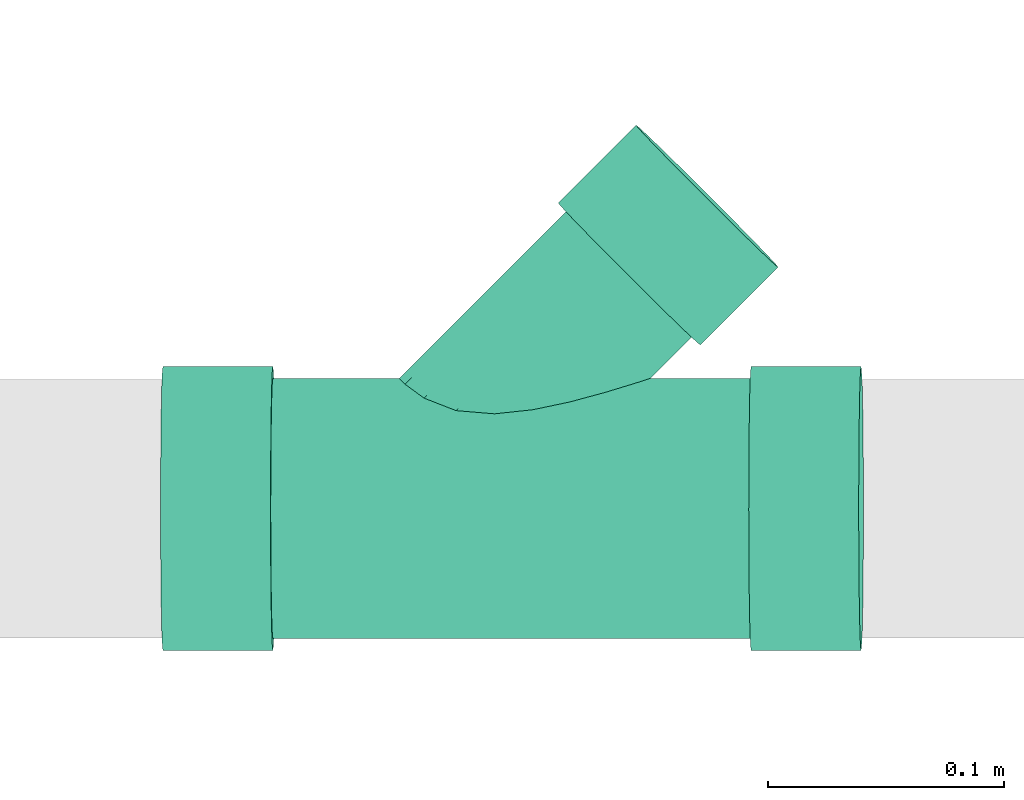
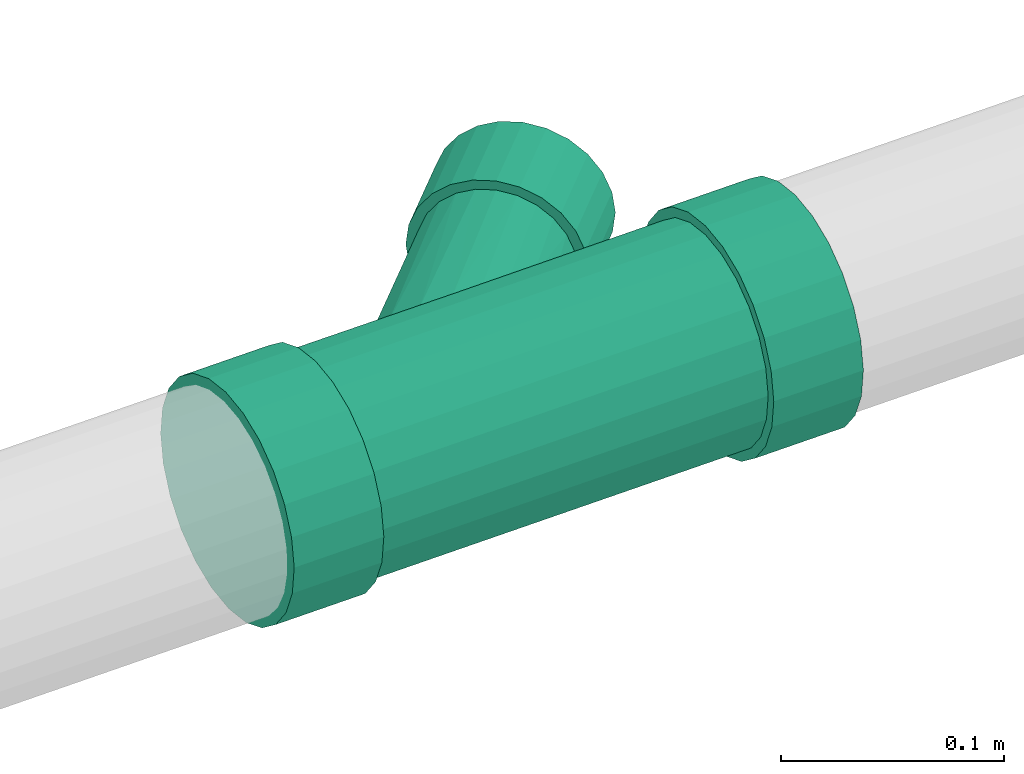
# One storey, part 66 of 83: 1 flow fitting.
"""IFC2X3 building model written with IfcOpenShell, lengths in millimetres."""

from ifc_helpers import new_model, entity, si_unit, converted_unit, derived_unit, direction, frame, origin_with_axes, place, context, subcontext, project, spatial, open_shell, surface_model, source, transform, mapped, type_object, element, save


model = new_model("IFC2X3")

# Units and contexts
model_context = context("Model", 3, precision=0.01, world=frame((0.0, 4.29681676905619e-09, 0.0)), true_north=direction((4.01073788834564e-13, 1.0)))
plan_context = context("Plan", 3, precision=0.01, world=frame((0.0, 4.29681676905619e-09, 0.0)), true_north=direction((4.01073788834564e-13, 1.0)))
body_context = subcontext(model_context, "Body", "Model", "MODEL_VIEW")
ifc_project = project(units=[converted_unit("PLANEANGLEUNIT", "DEGREE", entity("IfcPositiveLengthMeasure", 0.0174532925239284), si_unit("PLANEANGLEUNIT", "RADIAN"), dimensions=[0, 0, 0, 0, 0, 0, 0]), si_unit("AREAUNIT", "SQUARE_METRE"), si_unit("LENGTHUNIT", "METRE", prefix="MILLI"), si_unit("MASSUNIT", "GRAM", prefix="KILO"), si_unit("POWERUNIT", "WATT"), si_unit("PRESSUREUNIT", "PASCAL"), si_unit("FORCEUNIT", "NEWTON", prefix="KILO"), si_unit("ELECTRICVOLTAGEUNIT", "VOLT"), si_unit("ELECTRICCURRENTUNIT", "AMPERE"), si_unit("THERMODYNAMICTEMPERATUREUNIT", "DEGREE_CELSIUS"), si_unit("TIMEUNIT", "SECOND"), si_unit("VOLUMEUNIT", "CUBIC_METRE"), derived_unit("LINEARVELOCITYUNIT", [(si_unit("LENGTHUNIT", "METRE"), 1), (si_unit("TIMEUNIT", "SECOND"), -1)]), derived_unit("VOLUMETRICFLOWRATEUNIT", [(si_unit("VOLUMEUNIT", "CUBIC_METRE"), 1), (si_unit("TIMEUNIT", "SECOND"), -1)]), derived_unit("THERMALTRANSMITTANCEUNIT", [(si_unit("POWERUNIT", "WATT"), 1), (si_unit("THERMODYNAMICTEMPERATUREUNIT", "KELVIN"), -1), (si_unit("AREAUNIT", "SQUARE_METRE"), -1)]), derived_unit("SOUNDPRESSUREUNIT", [(si_unit("PRESSUREUNIT", "PASCAL"), 1)])], contexts=[model_context, plan_context])

# Site, building, storey
site_placement = place(None, frame((0.0, -4.29681676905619e-09, 0.0), z_axis=(0.0, 0.0, 1.0), x_axis=(1.0, 0.0, 0.0)))
site = spatial("IfcSite", under=ifc_project, at=site_placement, Name="ENGM", CompositionType="ELEMENT")
building_placement = place(site_placement, frame((0.0, 4.29681676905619e-09, 0.0), z_axis=(0.0, 0.0, 1.0), x_axis=(1.0, 0.0, 0.0)))
building = spatial("IfcBuilding", under=site, at=building_placement, Name="TI", CompositionType="ELEMENT")
storey_placement = place(building_placement, frame((0.0, 0.0, 204000.0), z_axis=(0.0, 0.0, 1.0), x_axis=(1.0, 0.0, 0.0)))
storey = spatial("IfcBuildingStorey", under=building, at=storey_placement, Name="Nivå D", CompositionType="ELEMENT", Elevation=204000.0)

# Flow fitting
pipe_fitting_type = type_object("IfcPipeFittingType", Name="magi_sewer_tee_wye_NOR", PredefinedType="JUNCTION")
shared_shape = source(origin_with_axes(), body_context, "Body", "SurfaceModel", [
    surface_model("IfcShellBasedSurfaceModel", [(-98.01345, -30.0, -51.96152), (-98.01345, 42.42641, -42.42641), (-98.01345, -15.52914, -57.95555), (-98.01345, -51.96152, -30.0), (-98.01345, -42.42641, -42.42641), (-98.01345, -57.95555, -15.52914), (-98.01345, -60.0, 0.0), (-98.01345, 0.0, -60.0), (-98.01345, 30.0, -51.96152), (-98.01345, 15.52914, -57.95555), (-98.01345, -57.95555, 15.52914), (-98.01345, 51.96152, -30.0), (-98.01345, 60.0, 0.0), (-98.01345, 57.95555, -15.52914), (-98.01345, -51.96152, 30.0), (-98.01345, -42.42641, 42.42641), (-98.01345, -15.52914, 57.95555), (-98.01345, 0.0, 60.0), (-98.01345, -30.0, 51.96152), (-98.01345, 51.96152, 30.0), (-98.01345, 57.95555, 15.52914), (-98.01345, 30.0, 51.96152), (-98.01345, 42.42641, 42.42641), (-98.01345, 15.52914, 57.95555), (-51.51345, -42.42641, 42.42641), (-51.51345, 0.0, 60.0), (-51.51345, -15.52914, 57.95555), (-51.51345, -30.0, 51.96152), (-51.51345, -51.96152, 30.0), (-51.51345, -57.95555, 15.52914), (-51.51345, 60.0, 0.0), (-51.51345, 30.0, 51.96152), (-51.51345, 51.96152, 30.0), (-51.51345, 42.42641, 42.42641), (-51.51345, 15.52914, 57.95555), (-51.51345, 57.95555, 15.52914), (-51.51345, 51.96152, -30.0), (-51.51345, 42.42641, -42.42641), (-51.51345, -57.95555, -15.52914), (-51.51345, -42.42641, -42.42641), (-51.51345, -51.96152, -30.0), (-51.51345, -30.0, -51.96152), (-51.51345, -15.52914, -57.95555), (-51.51345, 57.95555, -15.52914), (-51.51345, 30.0, -51.96152), (-51.51345, 0.0, -60.0), (-51.51345, 15.52914, -57.95555), (-51.51345, -60.0, 0.0), (-51.51345, 0.0, 55.0), (-51.51345, 14.23505, 53.12592), (-51.51345, 27.5, 47.63139), (-51.51345, 47.63139, 27.5), (-51.51345, -47.63139, 27.5), (-51.51345, 38.89087, 38.89087), (-51.51345, 53.12592, -14.23505), (-51.51345, -27.5, 47.63139), (-51.51345, -14.23505, 53.12592), (-51.51345, -38.89087, 38.89087), (-51.51345, -55.0, 0.0), (-51.51345, -53.12592, 14.23505), (-51.51345, 53.12592, 14.23505), (-51.51345, 47.63139, -27.5), (-51.51345, -27.5, -47.63139), (-51.51345, 0.0, -55.0), (-51.51345, 38.89087, -38.89087), (-51.51345, 27.5, -47.63139), (-51.51345, 14.23505, -53.12592), (-51.51345, -47.63139, -27.5), (-51.51345, -38.89087, -38.89087), (-51.51345, -53.12592, -14.23505), (-51.51345, -14.23505, -53.12592), (-51.51345, 55.0, 0.0), (197.23148, 30.0, -51.96152), (197.23148, -42.42641, -42.42641), (197.23148, 15.52914, -57.95555), (197.23148, 51.96152, -30.0), (197.23148, 42.42641, -42.42641), (197.23148, 57.95555, -15.52914), (197.23148, 60.0, 0.0), (197.23148, 0.0, -60.0), (197.23148, -30.0, -51.96152), (197.23148, -15.52914, -57.95555), (197.23148, 57.95555, 15.52914), (197.23148, -51.96152, -30.0), (197.23148, -60.0, 0.0), (197.23148, -57.95555, -15.52914), (197.23148, 51.96152, 30.0), (197.23148, 42.42641, 42.42641), (197.23148, 15.52914, 57.95555), (197.23148, 0.0, 60.0), (197.23148, 30.0, 51.96152), (197.23148, -51.96152, 30.0), (197.23148, -57.95555, 15.52914), (197.23148, -30.0, 51.96152), (197.23148, -42.42641, 42.42641), (197.23148, -15.52914, 57.95555), (150.73148, 42.42641, 42.42641), (150.73148, 0.0, 60.0), (150.73148, 15.52914, 57.95555), (150.73148, 30.0, 51.96152), (150.73148, 51.96152, 30.0), (150.73148, 57.95555, 15.52914), (150.73148, -60.0, 0.0), (150.73148, -30.0, 51.96152), (150.73148, -51.96152, 30.0), (150.73148, -42.42641, 42.42641), (150.73148, -15.52914, 57.95555), (150.73148, -57.95555, 15.52914), (150.73148, -51.96152, -30.0), (150.73148, -42.42641, -42.42641), (150.73148, 57.95555, -15.52914), (150.73148, 42.42641, -42.42641), (150.73148, 51.96152, -30.0), (150.73148, 30.0, -51.96152), (150.73148, 15.52914, -57.95555), (150.73148, -57.95555, -15.52914), (150.73148, -30.0, -51.96152), (150.73148, 0.0, -60.0), (150.73148, -15.52914, -57.95555), (150.73148, 60.0, 0.0), (99.21803, -99.19519, -42.5), (70.19333, -128.22658, -10.99981), (106.99517, -91.41626, -41.05185), (114.24232, -84.16745, -36.80608), (128.24273, -70.16381, -10.99981), (125.24086, -73.16637, -21.25), (120.46558, -77.94274, -30.05204), (70.19333, -128.22658, 10.99981), (84.19373, -114.22294, -36.80608), (77.97047, -120.44764, -30.05204), (91.44088, -106.97413, -41.05185), (73.19519, -125.22402, -21.25), (69.16945, -129.25069, 0.0), (84.19373, -114.22294, 36.80608), (114.24232, -84.16745, 36.80608), (128.24273, -70.16381, 10.99981), (125.24086, -73.16637, 21.25), (120.46558, -77.94274, 30.05204), (99.21803, -99.19519, 42.5), (106.99517, -91.41626, 41.05185), (73.19519, -125.22402, 21.25), (77.97047, -120.44764, 30.05204), (91.44088, -106.97413, 41.05185), (129.2666, -69.13969, 0.0), (139.87942, -124.29294, -41.05185), (124.32513, -139.8508, -41.05185), (132.10227, -132.07187, -42.5), (153.34983, -110.81943, -30.05204), (147.12657, -117.04413, -36.80608), (103.07757, -161.10325, 10.99981), (117.07798, -147.09962, -36.80608), (158.1251, -106.04305, -21.25), (161.12697, -103.04049, 10.99981), (103.07757, -161.10325, -10.99981), (110.85472, -153.32433, -30.05204), (106.07944, -158.10069, -21.25), (102.05369, -162.12737, 0.0), (161.12697, -103.04049, -10.99981), (153.34983, -110.81943, 30.05204), (158.1251, -106.04305, 21.25), (147.12657, -117.04413, 36.80608), (139.87942, -124.29294, 41.05185), (132.10227, -132.07187, 42.5), (110.85472, -153.32433, 30.05204), (106.07944, -158.10069, 21.25), (117.07798, -147.09962, 36.80608), (124.32513, -139.8508, 41.05185), (162.15086, -102.01637, 0.0), (150.73148, 0.0, -55.0), (150.73148, 14.23505, -53.12592), (150.73148, 27.5, -47.63139), (150.73148, 38.89087, -38.89087), (150.73148, 47.63139, -27.5), (150.73148, -55.0, 0.0), (150.73148, -27.5, -47.63139), (150.73148, 53.12592, -14.23505), (150.73148, -14.23505, -53.12592), (150.73148, -47.63139, -27.5), (150.73148, -38.89087, -38.89087), (150.73148, -53.12592, -14.23505), (150.73148, -47.63139, 27.5), (150.73148, 55.0, 0.0), (150.73148, 47.63139, 27.5), (150.73148, 27.5, 47.63139), (150.73148, 38.89087, 38.89087), (150.73148, 14.23505, 53.12592), (150.73148, 0.0, 55.0), (150.73148, -53.12592, 14.23505), (150.73148, -27.5, 47.63139), (150.73148, -38.89087, 38.89087), (150.73148, -14.23505, 53.12592), (150.73148, 53.12592, 14.23505), (1.97355, -55.0, 0.0), (4.6492, -52.63398, -15.9582), (26.60066, -41.6117, -35.96479), (12.91168, -46.84943, -28.812), (42.85868, -40.27485, -37.45579), (89.17255, -49.17381, -24.63609), (150.73148, -50.37866, -20.86752), (108.05177, -55.0, 0.0), (101.74198, -52.97914, -14.77195), (74.62734, -45.26915, -31.23625), (59.08601, -42.00512, -35.50451), (42.85868, -40.27485, 37.45579), (26.60066, -41.6117, 35.96479), (12.91168, -46.84943, 28.812), (101.74198, -52.97914, 14.77195), (150.73148, -50.37866, 20.86752), (89.17255, -49.17381, 24.63609), (4.6492, -52.63398, 15.9582), (59.08601, -42.00512, 35.50451), (74.62734, -45.26915, 31.23625), (106.08021, -92.33143, -36.22222), (76.2567, -122.1618, 18.75), (99.21803, -99.19519, -37.5), (117.96586, -80.44304, -26.5165), (112.47475, -85.93542, -32.47595), (122.17935, -76.22858, -18.75), (72.70457, -125.71475, 0.0), (85.9613, -112.45497, -32.47595), (76.2567, -122.1618, -18.75), (80.47018, -117.94735, -26.5165), (92.35584, -106.05896, -36.22222), (73.608, -124.81111, -9.70571), (125.73148, -72.67563, 0.0), (124.82805, -73.57927, -9.70571), (124.82805, -73.57927, 9.70571), (99.21803, -99.19519, 37.5), (112.47475, -85.93542, 32.47595), (122.17935, -76.22858, 18.75), (106.08021, -92.33143, 36.22222), (117.96586, -80.44304, 26.5165), (85.9613, -112.45497, 32.47595), (80.47018, -117.94735, 26.5165), (73.608, -124.81111, 9.70571), (92.35584, -106.05896, 36.22222), (8.78044, -49.7417, 22.3851), (19.75617, -44.23056, 32.3884), (3.31137, -53.81699, 7.9791), (106.47432, -54.49478, 3.69299), (125.27976, -73.12745, 4.85286), (123.5037, -74.90393, 14.22786), (104.89688, -53.98957, 7.38598), (95.45726, -51.07647, 19.70402), (104.89688, -53.98957, -7.38598), (125.27976, -73.12745, -4.85286), (95.45726, -51.07647, -19.70402), (106.47432, -54.49478, -3.69299), (8.78044, -49.7417, -22.3851), (123.5037, -74.90393, -14.22786), (19.75617, -44.23056, -32.3884), (3.31137, -53.81699, -7.9791)], [open_shell([[[0, 1, 2]], [[3, 0, 4]], [[5, 6, 0]], [[5, 0, 3]], [[1, 0, 6]], [[7, 8, 9]], [[8, 7, 1]], [[2, 1, 7]], [[1, 10, 11]], [[11, 12, 13]], [[10, 1, 6]], [[10, 14, 15]], [[12, 10, 15]], [[16, 17, 15]], [[16, 15, 18]], [[19, 15, 17]], [[12, 19, 20]], [[12, 15, 19]], [[19, 21, 22]], [[19, 17, 21]], [[23, 21, 17]], [[10, 12, 11]], [[24, 25, 26]], [[24, 26, 27]], [[24, 28, 29]], [[25, 24, 30]], [[30, 24, 29]], [[31, 32, 33]], [[31, 34, 25]], [[32, 30, 35]], [[31, 25, 32]], [[25, 30, 32]], [[29, 36, 30]], [[37, 29, 38]], [[39, 38, 40]], [[41, 42, 38]], [[41, 38, 39]], [[37, 38, 42]], [[37, 36, 29]], [[43, 30, 36]], [[44, 45, 46]], [[45, 44, 37]], [[45, 37, 42]], [[47, 38, 29]], [[43, 13, 30]], [[36, 11, 43]], [[8, 37, 44]], [[36, 37, 1]], [[9, 44, 46]], [[43, 11, 13]], [[13, 12, 30]], [[9, 8, 44]], [[1, 37, 8]], [[1, 11, 36]], [[7, 9, 46]], [[46, 45, 7]], [[2, 42, 41]], [[39, 0, 41]], [[3, 40, 38]], [[39, 40, 4]], [[5, 38, 47]], [[42, 2, 45]], [[41, 0, 2]], [[45, 2, 7]], [[39, 4, 0]], [[40, 3, 4]], [[5, 3, 38]], [[47, 6, 5]], [[29, 10, 47]], [[28, 14, 29]], [[18, 24, 27]], [[28, 24, 15]], [[16, 27, 26]], [[29, 14, 10]], [[10, 6, 47]], [[18, 27, 16]], [[15, 24, 18]], [[15, 14, 28]], [[16, 25, 17]], [[16, 26, 25]], [[23, 34, 31]], [[33, 21, 31]], [[19, 32, 35]], [[33, 32, 22]], [[20, 35, 30]], [[34, 23, 25]], [[31, 21, 23]], [[25, 23, 17]], [[33, 22, 21]], [[32, 19, 22]], [[20, 19, 35]], [[30, 12, 20]], [[48, 49, 50]], [[48, 50, 51]], [[48, 51, 52]], [[51, 50, 53]], [[54, 52, 51]], [[48, 55, 56]], [[48, 57, 55]], [[52, 58, 59]], [[57, 48, 52]], [[52, 54, 58]], [[54, 51, 60]], [[54, 61, 58]], [[61, 62, 58]], [[63, 64, 65]], [[61, 64, 63]], [[65, 66, 63]], [[67, 62, 68]], [[69, 58, 67]], [[62, 63, 70]], [[67, 58, 62]], [[63, 62, 61]], [[71, 54, 60]], [[72, 73, 74]], [[75, 72, 76]], [[77, 78, 72]], [[77, 72, 75]], [[73, 72, 78]], [[79, 80, 81]], [[80, 79, 73]], [[74, 73, 79]], [[73, 82, 83]], [[83, 84, 85]], [[82, 73, 78]], [[82, 86, 87]], [[84, 82, 87]], [[88, 89, 87]], [[88, 87, 90]], [[91, 87, 89]], [[84, 91, 92]], [[84, 87, 91]], [[91, 93, 94]], [[91, 89, 93]], [[95, 93, 89]], [[82, 84, 83]], [[96, 97, 98]], [[96, 98, 99]], [[96, 100, 101]], [[97, 96, 102]], [[102, 96, 101]], [[103, 104, 105]], [[103, 106, 97]], [[104, 102, 107]], [[103, 97, 104]], [[97, 102, 104]], [[101, 108, 102]], [[109, 101, 110]], [[111, 110, 112]], [[113, 114, 110]], [[113, 110, 111]], [[109, 110, 114]], [[109, 108, 101]], [[115, 102, 108]], [[116, 117, 118]], [[117, 116, 109]], [[117, 109, 114]], [[119, 110, 101]], [[115, 85, 102]], [[108, 83, 115]], [[80, 109, 116]], [[108, 109, 73]], [[81, 116, 118]], [[115, 83, 85]], [[85, 84, 102]], [[81, 80, 116]], [[73, 109, 80]], [[73, 83, 108]], [[79, 81, 118]], [[118, 117, 79]], [[74, 114, 113]], [[111, 72, 113]], [[75, 112, 110]], [[111, 112, 76]], [[77, 110, 119]], [[114, 74, 117]], [[113, 72, 74]], [[117, 74, 79]], [[111, 76, 72]], [[112, 75, 76]], [[77, 75, 110]], [[119, 78, 77]], [[101, 82, 119]], [[100, 86, 101]], [[90, 96, 99]], [[100, 96, 87]], [[88, 99, 98]], [[101, 86, 82]], [[82, 78, 119]], [[90, 99, 88]], [[87, 96, 90]], [[87, 86, 100]], [[88, 97, 89]], [[88, 98, 97]], [[95, 106, 103]], [[105, 93, 103]], [[91, 104, 107]], [[105, 104, 94]], [[92, 107, 102]], [[106, 95, 97]], [[103, 93, 95]], [[97, 95, 89]], [[105, 94, 93]], [[104, 91, 94]], [[92, 91, 107]], [[102, 84, 92]], [[120, 121, 122]], [[123, 122, 124]], [[124, 125, 126]], [[123, 124, 126]], [[122, 121, 127]], [[128, 129, 130]], [[121, 130, 129]], [[131, 121, 129]], [[121, 120, 130]], [[132, 127, 121]], [[124, 122, 133]], [[134, 135, 124]], [[136, 135, 134]], [[134, 124, 133]], [[137, 136, 134]], [[134, 138, 139]], [[140, 141, 127]], [[133, 127, 141]], [[142, 138, 133]], [[133, 122, 127]], [[133, 138, 134]], [[143, 124, 135]], [[144, 145, 146]], [[147, 144, 148]], [[144, 149, 150]], [[151, 144, 147]], [[151, 152, 144]], [[150, 153, 154]], [[150, 145, 144]], [[154, 153, 155]], [[150, 149, 153]], [[153, 149, 156]], [[152, 151, 157]], [[144, 152, 158]], [[158, 152, 159]], [[149, 158, 160]], [[149, 144, 158]], [[161, 162, 160]], [[149, 163, 164]], [[163, 149, 165]], [[160, 166, 165]], [[165, 149, 160]], [[162, 166, 160]], [[152, 157, 167]], [[149, 132, 156]], [[164, 127, 149]], [[165, 166, 142]], [[163, 165, 141]], [[163, 140, 164]], [[164, 140, 127]], [[127, 132, 149]], [[141, 165, 133]], [[142, 133, 165]], [[138, 142, 166]], [[141, 140, 163]], [[166, 162, 138]], [[134, 161, 160]], [[158, 137, 160]], [[135, 159, 152]], [[158, 159, 136]], [[143, 152, 167]], [[161, 139, 162]], [[161, 134, 139]], [[162, 139, 138]], [[160, 137, 134]], [[158, 136, 137]], [[135, 136, 159]], [[152, 143, 135]], [[157, 151, 125]], [[167, 157, 143]], [[123, 147, 148]], [[147, 126, 151]], [[122, 148, 144]], [[124, 143, 157]], [[125, 124, 157]], [[125, 151, 126]], [[147, 123, 126]], [[122, 123, 148]], [[144, 120, 122]], [[144, 146, 120]], [[128, 145, 150]], [[154, 129, 150]], [[121, 155, 153]], [[154, 155, 131]], [[132, 153, 156]], [[145, 130, 146]], [[145, 128, 130]], [[146, 130, 120]], [[150, 129, 128]], [[154, 131, 129]], [[121, 131, 155]], [[153, 132, 121]], [[168, 169, 170]], [[171, 168, 170]], [[172, 173, 174]], [[172, 174, 171]], [[172, 175, 173]], [[168, 174, 176]], [[168, 171, 174]], [[174, 177, 178]], [[177, 174, 173]], [[173, 179, 177]], [[180, 175, 181]], [[180, 181, 182]], [[183, 182, 184]], [[183, 185, 186]], [[183, 186, 182]], [[180, 182, 186]], [[173, 180, 187]], [[175, 180, 173]], [[186, 188, 189]], [[189, 180, 186]], [[188, 186, 190]], [[181, 191, 182]], [[58, 69, 192]], [[193, 192, 69]], [[69, 67, 193]], [[67, 68, 194]], [[194, 195, 67]], [[196, 194, 68]], [[196, 174, 178]], [[67, 195, 193]], [[197, 177, 198]], [[199, 200, 179]], [[179, 173, 199]], [[197, 198, 200]], [[201, 202, 178]], [[201, 177, 197]], [[177, 201, 178]], [[198, 179, 200]], [[202, 196, 178]], [[196, 68, 62]], [[176, 70, 63]], [[174, 62, 70]], [[168, 63, 66]], [[61, 54, 172]], [[170, 65, 64]], [[171, 64, 61]], [[66, 65, 169]], [[175, 54, 71]], [[174, 70, 176]], [[176, 63, 168]], [[169, 168, 66]], [[65, 170, 169]], [[170, 64, 171]], [[172, 171, 61]], [[175, 172, 54]], [[71, 181, 175]], [[62, 174, 196]], [[51, 182, 60]], [[182, 51, 53]], [[71, 60, 191]], [[48, 56, 186]], [[49, 183, 50]], [[185, 49, 48]], [[53, 50, 184]], [[190, 56, 55]], [[182, 191, 60]], [[53, 184, 182]], [[191, 181, 71]], [[50, 183, 184]], [[183, 49, 185]], [[186, 185, 48]], [[190, 186, 56]], [[55, 188, 190]], [[55, 203, 188]], [[204, 52, 205]], [[52, 204, 57]], [[206, 207, 208]], [[204, 203, 57]], [[203, 189, 188]], [[59, 58, 192]], [[59, 209, 52]], [[209, 59, 192]], [[52, 209, 205]], [[210, 211, 189]], [[180, 189, 211]], [[211, 208, 180]], [[210, 189, 203]], [[206, 187, 207]], [[187, 199, 173]], [[199, 187, 206]], [[208, 207, 180]], [[203, 55, 57]], [[212, 213, 214]], [[215, 212, 216]], [[213, 215, 217]], [[212, 215, 213]], [[218, 214, 213]], [[219, 220, 221]], [[219, 222, 214]], [[220, 218, 223]], [[218, 220, 219]], [[214, 218, 219]], [[224, 217, 225]], [[226, 227, 224]], [[228, 226, 229]], [[228, 230, 226]], [[228, 229, 231]], [[227, 226, 230]], [[213, 232, 233]], [[234, 218, 213]], [[232, 227, 235]], [[232, 213, 224]], [[227, 232, 224]], [[213, 217, 224]], [[233, 236, 213]], [[232, 204, 237]], [[203, 204, 235]], [[234, 238, 218]], [[213, 209, 234]], [[238, 192, 218]], [[209, 213, 236]], [[233, 205, 236]], [[234, 209, 238]], [[205, 233, 232]], [[224, 239, 240]], [[235, 227, 203]], [[210, 230, 228]], [[231, 211, 228]], [[206, 241, 226]], [[231, 229, 208]], [[240, 239, 242]], [[230, 210, 203]], [[228, 211, 210]], [[229, 206, 243]], [[242, 226, 240]], [[206, 229, 241]], [[243, 208, 229]], [[242, 206, 226]], [[239, 224, 199]], [[231, 208, 211]], [[237, 205, 232]], [[230, 203, 227]], [[204, 232, 235]], [[225, 244, 245]], [[225, 200, 244]], [[201, 215, 216]], [[217, 197, 246]], [[245, 244, 247]], [[202, 216, 212]], [[248, 220, 193]], [[200, 225, 249]], [[224, 245, 247]], [[200, 249, 217]], [[200, 217, 246]], [[224, 247, 199]], [[248, 195, 221]], [[197, 217, 215]], [[197, 215, 201]], [[219, 195, 250]], [[216, 202, 201]], [[212, 196, 202]], [[222, 219, 194]], [[219, 250, 194]], [[218, 251, 223]], [[251, 218, 192]], [[214, 222, 196]], [[214, 196, 212]], [[222, 194, 196]], [[219, 221, 195]], [[220, 248, 221]], [[193, 220, 223]], [[251, 193, 223]]])]),
])
flow_fitting_placement = place(storey_placement, frame((607781.17559, 692997.95605, 6153.75331999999), z_axis=(0.0166640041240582, 0.00691300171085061, -0.999837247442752), x_axis=(0.999861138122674, 9.05210026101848e-06, 0.0166644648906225)))
element("IfcFlowFitting", 1, at=flow_fitting_placement, inside=storey, type_object=pipe_fitting_type, Name="magi_sewer_tee_wye_NOR", context=body_context, shape_type="MappedRepresentation", body=[
    mapped(shared_shape, transform((0.0, 0.0, 0.0), scale=1.0)),
])

save(model, "model.ifc")
